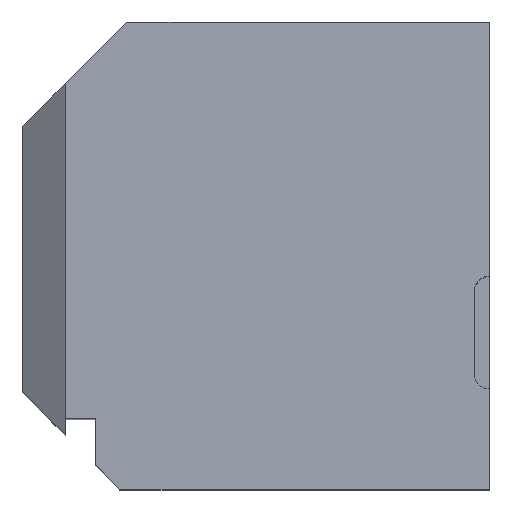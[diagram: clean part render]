
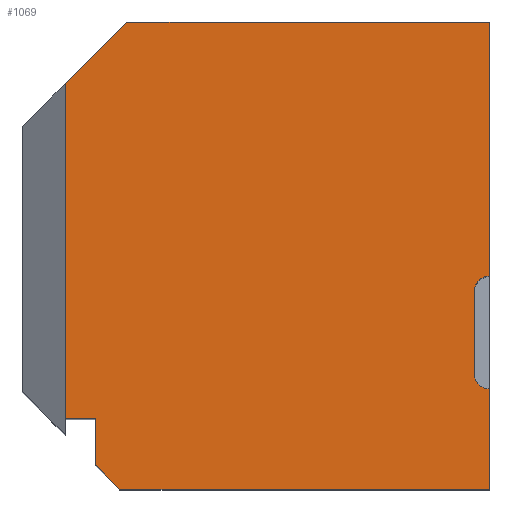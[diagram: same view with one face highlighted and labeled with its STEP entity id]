
A CAD part, top view. The second image highlights one B-rep face of the part: STEP entity #1069.
In plain terms, the highlighted planar face has unit normal (0, 0, 1).
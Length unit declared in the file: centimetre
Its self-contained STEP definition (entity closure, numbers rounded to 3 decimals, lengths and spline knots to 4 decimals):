
#3 = VERTEX_POINT ( 'NONE', #462 ) ;
#13 = EDGE_CURVE ( 'NONE', #525, #628, #100, .T. ) ;
#34 = VERTEX_POINT ( 'NONE', #806 ) ;
#45 = VECTOR ( 'NONE', #826, 100. ) ;
#65 = VECTOR ( 'NONE', #536, 100. ) ;
#72 = EDGE_CURVE ( 'NONE', #525, #290, #476, .T. ) ;
#100 = LINE ( 'NONE', #1191, #762 ) ;
#116 = DIRECTION ( 'NONE',  ( 0., 1., 0. ) ) ;
#117 = ORIENTED_EDGE ( 'NONE', *, *, #1206, .F. ) ;
#135 = ORIENTED_EDGE ( 'NONE', *, *, #463, .T. ) ;
#136 = VECTOR ( 'NONE', #1142, 100. ) ;
#150 = VECTOR ( 'NONE', #116, 100. ) ;
#174 = PLANE ( 'NONE',  #389 ) ;
#178 = CARTESIAN_POINT ( 'NONE',  ( 1000., 246.959, 1000. ) ) ;
#189 = DIRECTION ( 'NONE',  ( -1., 0., 0. ) ) ;
#207 = EDGE_CURVE ( 'NONE', #824, #336, #1237, .T. ) ;
#211 = DIRECTION ( 'NONE',  ( 0., 0., 1. ) ) ;
#215 = CARTESIAN_POINT ( 'NONE',  ( 156.7101, 0., 1000. ) ) ;
#225 = CARTESIAN_POINT ( 'NONE',  ( 1000., 1000., 1000. ) ) ;
#229 = VERTEX_POINT ( 'NONE', #240 ) ;
#233 = LINE ( 'NONE', #245, #754 ) ;
#240 = CARTESIAN_POINT ( 'NONE',  ( 91.507, 150.5271, 1000. ) ) ;
#244 = LINE ( 'NONE', #550, #372 ) ;
#245 = CARTESIAN_POINT ( 'NONE',  ( 91.507, 69.8748, 1000. ) ) ;
#290 = VERTEX_POINT ( 'NONE', #540 ) ;
#317 = CARTESIAN_POINT ( 'NONE',  ( 91.507, 867.7987, 1000. ) ) ;
#324 = CARTESIAN_POINT ( 'NONE',  ( 156.7101, 52.0253, 1000. ) ) ;
#328 = ORIENTED_EDGE ( 'NONE', *, *, #1034, .F. ) ;
#336 = VERTEX_POINT ( 'NONE', #960 ) ;
#338 = DIRECTION ( 'NONE',  ( 0., 1., 0. ) ) ;
#346 = CARTESIAN_POINT ( 'NONE',  ( 0., 0., 1000. ) ) ;
#362 = DIRECTION ( 'NONE',  ( -1., 0., 0. ) ) ;
#366 = AXIS2_PLACEMENT_3D ( 'NONE', #178, #680, #189 ) ;
#371 = EDGE_LOOP ( 'NONE', ( #554, #1204, #622, #830, #1262, #135, #1102, #328, #117, #1175, #797, #966 ) ) ;
#372 = VECTOR ( 'NONE', #362, 100. ) ;
#374 = VECTOR ( 'NONE', #882, 100. ) ;
#389 = AXIS2_PLACEMENT_3D ( 'NONE', #563, #896, #669 ) ;
#401 = CARTESIAN_POINT ( 'NONE',  ( 0., 1000., 1000. ) ) ;
#417 = CARTESIAN_POINT ( 'NONE',  ( 1000., 456.2744, 1000. ) ) ;
#418 = DIRECTION ( 'NONE',  ( 1., 0., 0. ) ) ;
#444 = EDGE_CURVE ( 'NONE', #290, #558, #1223, .T. ) ;
#452 = EDGE_CURVE ( 'NONE', #229, #1234, #233, .T. ) ;
#462 = CARTESIAN_POINT ( 'NONE',  ( 1000., 214.3586, 1000. ) ) ;
#463 = EDGE_CURVE ( 'NONE', #34, #1234, #1015, .T. ) ;
#476 = CIRCLE ( 'NONE', #1213, 32.6004 ) ;
#478 = LINE ( 'NONE', #401, #374 ) ;
#525 = VERTEX_POINT ( 'NONE', #417 ) ;
#536 = DIRECTION ( 'NONE',  ( -0.707, -0.707, 0. ) ) ;
#539 = VECTOR ( 'NONE', #1210, 100. ) ;
#540 = CARTESIAN_POINT ( 'NONE',  ( 967.3996, 423.674, 1000. ) ) ;
#550 = CARTESIAN_POINT ( 'NONE',  ( 91.507, 150.5271, 1000. ) ) ;
#554 = ORIENTED_EDGE ( 'NONE', *, *, #1153, .F. ) ;
#558 = VERTEX_POINT ( 'NONE', #1149 ) ;
#563 = CARTESIAN_POINT ( 'NONE',  ( 0., 0., 1000. ) ) ;
#564 = DIRECTION ( 'NONE',  ( 0.707, -0.707, 0. ) ) ;
#581 = EDGE_CURVE ( 'NONE', #876, #824, #664, .T. ) ;
#593 = CARTESIAN_POINT ( 'NONE',  ( 208.7354, 0., 1000. ) ) ;
#615 = VERTEX_POINT ( 'NONE', #865 ) ;
#622 = ORIENTED_EDGE ( 'NONE', *, *, #72, .F. ) ;
#628 = VERTEX_POINT ( 'NONE', #1168 ) ;
#664 = LINE ( 'NONE', #860, #1246 ) ;
#669 = DIRECTION ( 'NONE',  ( 1., 0., 0. ) ) ;
#680 = DIRECTION ( 'NONE',  ( 0., 0., 1. ) ) ;
#720 = LINE ( 'NONE', #225, #539 ) ;
#754 = VECTOR ( 'NONE', #338, 100. ) ;
#762 = VECTOR ( 'NONE', #867, 100. ) ;
#794 = EDGE_CURVE ( 'NONE', #628, #34, #478, .T. ) ;
#797 = ORIENTED_EDGE ( 'NONE', *, *, #207, .T. ) ;
#806 = CARTESIAN_POINT ( 'NONE',  ( 223.7083, 1000., 1000. ) ) ;
#824 = VERTEX_POINT ( 'NONE', #593 ) ;
#826 = DIRECTION ( 'NONE',  ( 0., -1., 0. ) ) ;
#830 = ORIENTED_EDGE ( 'NONE', *, *, #13, .T. ) ;
#849 = EDGE_CURVE ( 'NONE', #336, #3, #720, .T. ) ;
#860 = CARTESIAN_POINT ( 'NONE',  ( 104.3677, 104.3677, 1000. ) ) ;
#865 = CARTESIAN_POINT ( 'NONE',  ( 156.7101, 150.5271, 1000. ) ) ;
#867 = DIRECTION ( 'NONE',  ( 0., 1., 0. ) ) ;
#876 = VERTEX_POINT ( 'NONE', #324 ) ;
#882 = DIRECTION ( 'NONE',  ( -1., 0., 0. ) ) ;
#896 = DIRECTION ( 'NONE',  ( 0., 0., 1. ) ) ;
#960 = CARTESIAN_POINT ( 'NONE',  ( 1000., 0., 1000. ) ) ;
#966 = ORIENTED_EDGE ( 'NONE', *, *, #849, .T. ) ;
#994 = CARTESIAN_POINT ( 'NONE',  ( 1000., 423.674, 1000. ) ) ;
#1015 = LINE ( 'NONE', #1242, #65 ) ;
#1034 = EDGE_CURVE ( 'NONE', #615, #229, #244, .T. ) ;
#1064 = FACE_OUTER_BOUND ( 'NONE', #371, .T. ) ;
#1069 = ADVANCED_FACE ( 'NONE', ( #1064 ), #174, .T. ) ;
#1102 = ORIENTED_EDGE ( 'NONE', *, *, #452, .F. ) ;
#1122 = CARTESIAN_POINT ( 'NONE',  ( 967.3996, 246.959, 1000. ) ) ;
#1142 = DIRECTION ( 'NONE',  ( 1., 0., 0. ) ) ;
#1149 = CARTESIAN_POINT ( 'NONE',  ( 967.3996, 246.959, 1000. ) ) ;
#1153 = EDGE_CURVE ( 'NONE', #558, #3, #1164, .T. ) ;
#1164 = CIRCLE ( 'NONE', #366, 32.6004 ) ;
#1168 = CARTESIAN_POINT ( 'NONE',  ( 1000., 1000., 1000. ) ) ;
#1175 = ORIENTED_EDGE ( 'NONE', *, *, #581, .T. ) ;
#1191 = CARTESIAN_POINT ( 'NONE',  ( 1000., 1000., 1000. ) ) ;
#1194 = LINE ( 'NONE', #215, #150 ) ;
#1204 = ORIENTED_EDGE ( 'NONE', *, *, #444, .F. ) ;
#1206 = EDGE_CURVE ( 'NONE', #876, #615, #1194, .T. ) ;
#1210 = DIRECTION ( 'NONE',  ( 0., 1., 0. ) ) ;
#1213 = AXIS2_PLACEMENT_3D ( 'NONE', #994, #211, #418 ) ;
#1223 = LINE ( 'NONE', #1122, #45 ) ;
#1234 = VERTEX_POINT ( 'NONE', #317 ) ;
#1237 = LINE ( 'NONE', #346, #136 ) ;
#1242 = CARTESIAN_POINT ( 'NONE',  ( -388.1458, 388.1458, 1000. ) ) ;
#1246 = VECTOR ( 'NONE', #564, 100. ) ;
#1262 = ORIENTED_EDGE ( 'NONE', *, *, #794, .T. ) ;
